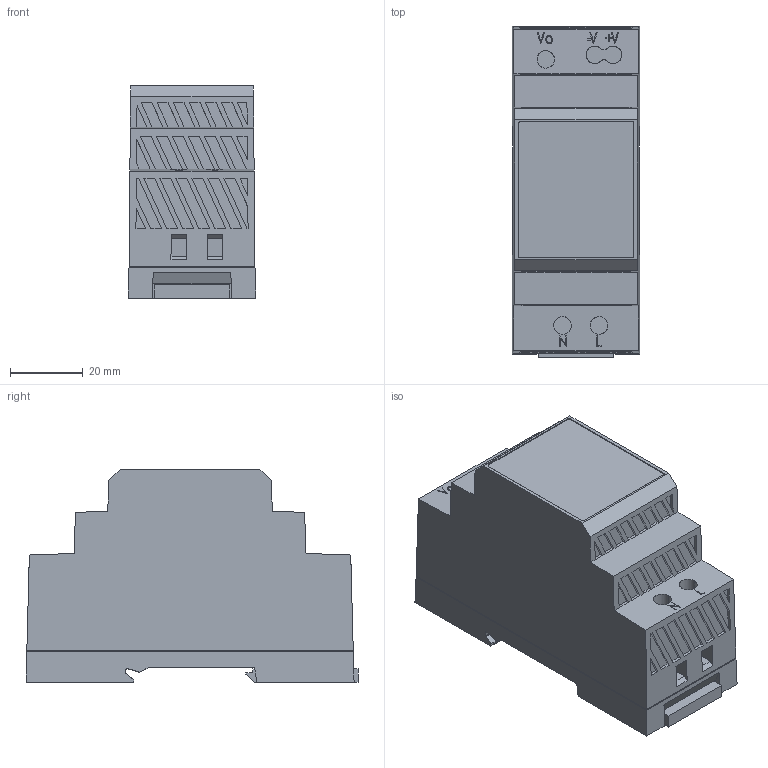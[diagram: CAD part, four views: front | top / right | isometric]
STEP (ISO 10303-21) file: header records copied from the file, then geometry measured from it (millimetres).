
FILE_DESCRIPTION (( 'STEP AP214' ), '1' );
FILE_NAME ('HDR-30-xx.STEP', '2024-04-15T08:55:13', ( '' ), ( '' ), 'SwSTEP 2.0', 'SolidWorks 2022', '' );
FILE_SCHEMA (( 'AUTOMOTIVE_DESIGN' ));
Length unit declared in the file: millimetre
Products named in the file (1): HDR-30-xx
Bounding box: 35 x 91.09 x 58.35 mm (x, y, z)
Volume: 142152.2 mm3; surface area: 21980.1 mm2
Topology: 1 solids, 1 shells, 447 faces, 1153 edges, 750 vertices
Faces by surface type: plane 417, bspline 30
Entity records: 14882 total; most frequent: CARTESIAN_POINT 4201, ORIENTED_EDGE 2306, DIRECTION 1918, EDGE_CURVE 1153, LINE 1082, VECTOR 1082, VERTEX_POINT 750, EDGE_LOOP 489
